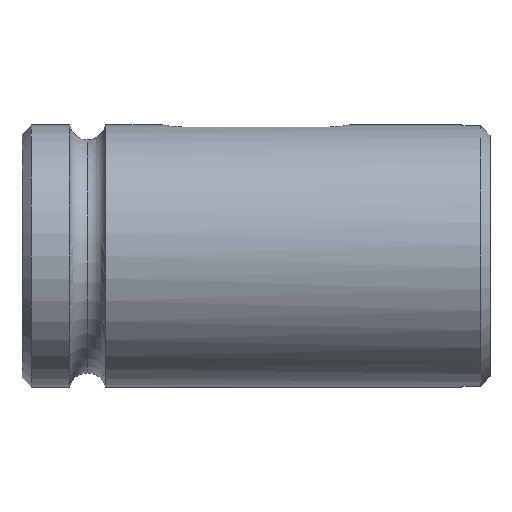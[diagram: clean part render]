
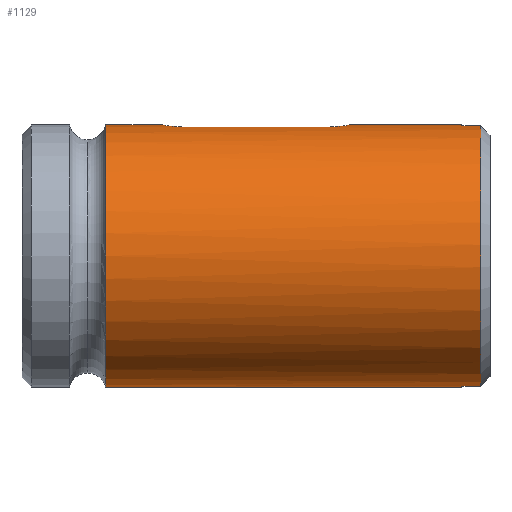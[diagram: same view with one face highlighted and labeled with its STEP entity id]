
A CAD part, front view. The second image highlights one B-rep face of the part: STEP entity #1129.
In plain terms, the highlighted cylindrical face has radius 14 mm (diameter 28 mm), a partial arc.
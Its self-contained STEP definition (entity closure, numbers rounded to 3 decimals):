
#5 = ORIENTED_EDGE ( 'NONE', *, *, #960, .F. ) ;
#18 = CARTESIAN_POINT ( 'NONE',  ( -67.863, 0., -14. ) ) ;
#28 = VERTEX_POINT ( 'NONE', #432 ) ;
#30 = VECTOR ( 'NONE', #669, 1000. ) ;
#40 = CARTESIAN_POINT ( 'NONE',  ( -67.863, -2.5, 13.775 ) ) ;
#56 = VERTEX_POINT ( 'NONE', #929 ) ;
#67 = DIRECTION ( 'NONE',  ( -1., 0., 0. ) ) ;
#89 = DIRECTION ( 'NONE',  ( -1., 0., 0. ) ) ;
#90 = CARTESIAN_POINT ( 'NONE',  ( -16.852, -2.42, 13.789 ) ) ;
#92 = CARTESIAN_POINT ( 'NONE',  ( -33.756, -2.168, 13.831 ) ) ;
#96 = LINE ( 'NONE', #991, #539 ) ;
#97 = CARTESIAN_POINT ( 'NONE',  ( -67.863, 0., 0. ) ) ;
#122 = ORIENTED_EDGE ( 'NONE', *, *, #1080, .T. ) ;
#124 = CARTESIAN_POINT ( 'NONE',  ( -1., 0., 0. ) ) ;
#126 = VERTEX_POINT ( 'NONE', #469 ) ;
#133 = EDGE_CURVE ( 'NONE', #795, #839, #616, .T. ) ;
#141 = ORIENTED_EDGE ( 'NONE', *, *, #546, .F. ) ;
#161 = AXIS2_PLACEMENT_3D ( 'NONE', #124, #744, #210 ) ;
#163 = ORIENTED_EDGE ( 'NONE', *, *, #693, .T. ) ;
#166 = VERTEX_POINT ( 'NONE', #752 ) ;
#178 = CARTESIAN_POINT ( 'NONE',  ( -16.39, -2.246, 13.819 ) ) ;
#179 = DIRECTION ( 'NONE',  ( -1., 0., 0. ) ) ;
#184 = CARTESIAN_POINT ( 'NONE',  ( -33.308, -2.372, 13.798 ) ) ;
#198 = VERTEX_POINT ( 'NONE', #207 ) ;
#205 = ORIENTED_EDGE ( 'NONE', *, *, #597, .T. ) ;
#207 = CARTESIAN_POINT ( 'NONE',  ( -1., -1.5, 13.919 ) ) ;
#210 = DIRECTION ( 'NONE',  ( 0., 0., 1. ) ) ;
#234 = VERTEX_POINT ( 'NONE', #608 ) ;
#239 = EDGE_CURVE ( 'NONE', #234, #56, #326, .T. ) ;
#250 = CYLINDRICAL_SURFACE ( 'NONE', #855, 14. ) ;
#265 = CARTESIAN_POINT ( 'NONE',  ( -34.984, -0.329, 13.997 ) ) ;
#266 = CARTESIAN_POINT ( 'NONE',  ( -15.975, -1.988, 13.858 ) ) ;
#272 = CARTESIAN_POINT ( 'NONE',  ( -32.831, -2.483, 13.778 ) ) ;
#324 = LINE ( 'NONE', #1078, #990 ) ;
#326 = LINE ( 'NONE', #789, #964 ) ;
#345 = ORIENTED_EDGE ( 'NONE', *, *, #133, .T. ) ;
#347 = VECTOR ( 'NONE', #361, 1000. ) ;
#352 = CARTESIAN_POINT ( 'NONE',  ( -34.872, -0.806, 13.978 ) ) ;
#353 = CARTESIAN_POINT ( 'NONE',  ( -15.501, -1.537, 13.917 ) ) ;
#357 = CARTESIAN_POINT ( 'NONE',  ( -32.5, -2.5, 13.775 ) ) ;
#361 = DIRECTION ( 'NONE',  ( -1., 0., 0. ) ) ;
#364 = ORIENTED_EDGE ( 'NONE', *, *, #966, .F. ) ;
#372 = CARTESIAN_POINT ( 'NONE',  ( -17.5, -2.5, 13.775 ) ) ;
#393 = VECTOR ( 'NONE', #917, 1000. ) ;
#432 = CARTESIAN_POINT ( 'NONE',  ( -41.064, 0., 14. ) ) ;
#435 = AXIS2_PLACEMENT_3D ( 'NONE', #1048, #491, #1132 ) ;
#438 = CIRCLE ( 'NONE', #435, 14. ) ;
#439 = CARTESIAN_POINT ( 'NONE',  ( -34.669, -1.254, 13.944 ) ) ;
#442 = CARTESIAN_POINT ( 'NONE',  ( -15.128, -0.807, 13.978 ) ) ;
#455 = CARTESIAN_POINT ( 'NONE',  ( -41.064, 0., -14. ) ) ;
#469 = CARTESIAN_POINT ( 'NONE',  ( -32.5, -2.5, 13.775 ) ) ;
#476 = LINE ( 'NONE', #40, #30 ) ;
#491 = DIRECTION ( 'NONE',  ( -1., 0., 0. ) ) ;
#518 = LINE ( 'NONE', #18, #393 ) ;
#524 = EDGE_LOOP ( 'NONE', ( #5, #163, #951, #816, #615, #205, #345, #364, #141, #886, #122, #949 ) ) ;
#534 = CARTESIAN_POINT ( 'NONE',  ( -34.384, -1.651, 13.903 ) ) ;
#536 = CARTESIAN_POINT ( 'NONE',  ( -15.016, -0.326, 13.997 ) ) ;
#539 = VECTOR ( 'NONE', #1081, 1000. ) ;
#543 = CARTESIAN_POINT ( 'NONE',  ( -41.064, 0., 0. ) ) ;
#546 = EDGE_CURVE ( 'NONE', #126, #942, #476, .T. ) ;
#557 = B_SPLINE_CURVE_WITH_KNOTS ( 'NONE', 3,
 ( #1163, #707, #265, #893, #352, #994, #439, #1084, #534, #1168, #626, #92, #716, #184, #811, #272, #903, #357 ),
 .UNSPECIFIED., .F., .F.,
 ( 4, 2, 2, 2, 2, 2, 2, 2, 4 ),
 ( 0.004, 0.004, 0.005, 0.005, 0.006, 0.006, 0.007, 0.007, 0.008 ),
 .UNSPECIFIED. ) ;
#597 = EDGE_CURVE ( 'NONE', #166, #795, #438, .T. ) ;
#598 = CARTESIAN_POINT ( 'NONE',  ( -3., 0., 0. ) ) ;
#606 = AXIS2_PLACEMENT_3D ( 'NONE', #598, #67, #688 ) ;
#608 = CARTESIAN_POINT ( 'NONE',  ( -3., -1.5, -13.919 ) ) ;
#615 = ORIENTED_EDGE ( 'NONE', *, *, #849, .T. ) ;
#616 = LINE ( 'NONE', #739, #347 ) ;
#619 = CARTESIAN_POINT ( 'NONE',  ( -15., 0., 14. ) ) ;
#621 = DIRECTION ( 'NONE',  ( 0., 0., 1. ) ) ;
#622 = CARTESIAN_POINT ( 'NONE',  ( -17.172, -2.484, 13.778 ) ) ;
#626 = CARTESIAN_POINT ( 'NONE',  ( -34.026, -1.987, 13.859 ) ) ;
#627 = CARTESIAN_POINT ( 'NONE',  ( -15., 0., 14. ) ) ;
#631 = CARTESIAN_POINT ( 'NONE',  ( -35., 0., 14. ) ) ;
#635 = DIRECTION ( 'NONE',  ( 0., 0., 1. ) ) ;
#649 = VERTEX_POINT ( 'NONE', #1053 ) ;
#669 = DIRECTION ( 'NONE',  ( 1., 0., 0. ) ) ;
#688 = DIRECTION ( 'NONE',  ( 0., -1., 0. ) ) ;
#693 = EDGE_CURVE ( 'NONE', #649, #234, #1090, .T. ) ;
#707 = CARTESIAN_POINT ( 'NONE',  ( -35., -0.163, 14. ) ) ;
#711 = CARTESIAN_POINT ( 'NONE',  ( -16.693, -2.372, 13.798 ) ) ;
#716 = CARTESIAN_POINT ( 'NONE',  ( -33.61, -2.246, 13.819 ) ) ;
#739 = CARTESIAN_POINT ( 'NONE',  ( -67.863, 0., 14. ) ) ;
#744 = DIRECTION ( 'NONE',  ( -1., 0., 0. ) ) ;
#752 = CARTESIAN_POINT ( 'NONE',  ( -3., -1.5, 13.919 ) ) ;
#760 = FACE_OUTER_BOUND ( 'NONE', #524, .T. ) ;
#789 = CARTESIAN_POINT ( 'NONE',  ( -67.863, -1.5, -13.919 ) ) ;
#795 = VERTEX_POINT ( 'NONE', #883 ) ;
#807 = CARTESIAN_POINT ( 'NONE',  ( -16.246, -2.169, 13.831 ) ) ;
#811 = CARTESIAN_POINT ( 'NONE',  ( -33.152, -2.419, 13.789 ) ) ;
#816 = ORIENTED_EDGE ( 'NONE', *, *, #1050, .T. ) ;
#839 = VERTEX_POINT ( 'NONE', #619 ) ;
#849 = EDGE_CURVE ( 'NONE', #198, #166, #324, .T. ) ;
#852 = EDGE_CURVE ( 'NONE', #876, #126, #557, .T. ) ;
#855 = AXIS2_PLACEMENT_3D ( 'NONE', #97, #179, #621 ) ;
#876 = VERTEX_POINT ( 'NONE', #631 ) ;
#883 = CARTESIAN_POINT ( 'NONE',  ( -3., 0., 14. ) ) ;
#886 = ORIENTED_EDGE ( 'NONE', *, *, #852, .F. ) ;
#893 = CARTESIAN_POINT ( 'NONE',  ( -34.92, -0.65, 13.986 ) ) ;
#895 = CARTESIAN_POINT ( 'NONE',  ( -15.847, -1.882, 13.873 ) ) ;
#903 = CARTESIAN_POINT ( 'NONE',  ( -32.665, -2.5, 13.775 ) ) ;
#917 = DIRECTION ( 'NONE',  ( -1., 0., 0. ) ) ;
#925 = VERTEX_POINT ( 'NONE', #455 ) ;
#929 = CARTESIAN_POINT ( 'NONE',  ( -1., -1.5, -13.919 ) ) ;
#942 = VERTEX_POINT ( 'NONE', #1101 ) ;
#949 = ORIENTED_EDGE ( 'NONE', *, *, #1138, .F. ) ;
#951 = ORIENTED_EDGE ( 'NONE', *, *, #239, .T. ) ;
#960 = EDGE_CURVE ( 'NONE', #649, #925, #518, .T. ) ;
#964 = VECTOR ( 'NONE', #1060, 1000. ) ;
#966 = EDGE_CURVE ( 'NONE', #942, #839, #1047, .T. ) ;
#972 = CIRCLE ( 'NONE', #1037, 14. ) ;
#990 = VECTOR ( 'NONE', #89, 1000. ) ;
#991 = CARTESIAN_POINT ( 'NONE',  ( -67.863, 0., 14. ) ) ;
#994 = CARTESIAN_POINT ( 'NONE',  ( -34.747, -1.109, 13.957 ) ) ;
#995 = CARTESIAN_POINT ( 'NONE',  ( -15.315, -1.258, 13.947 ) ) ;
#1037 = AXIS2_PLACEMENT_3D ( 'NONE', #543, #1175, #635 ) ;
#1047 = B_SPLINE_CURVE_WITH_KNOTS ( 'NONE', 3,
 ( #372, #1106, #622, #90, #711, #178, #807, #266, #895, #353, #995, #442, #1086, #536, #1169, #627 ),
 .UNSPECIFIED., .F., .F.,
 ( 4, 2, 2, 2, 2, 2, 2, 4 ),
 ( 0., 0., 0.001, 0.001, 0.002, 0.003, 0.003, 0.004 ),
 .UNSPECIFIED. ) ;
#1048 = CARTESIAN_POINT ( 'NONE',  ( -3., 0., 0. ) ) ;
#1050 = EDGE_CURVE ( 'NONE', #56, #198, #1083, .T. ) ;
#1053 = CARTESIAN_POINT ( 'NONE',  ( -3., 0., -14. ) ) ;
#1060 = DIRECTION ( 'NONE',  ( 1., 0., 0. ) ) ;
#1078 = CARTESIAN_POINT ( 'NONE',  ( -67.863, -1.5, 13.919 ) ) ;
#1080 = EDGE_CURVE ( 'NONE', #876, #28, #96, .T. ) ;
#1081 = DIRECTION ( 'NONE',  ( -1., 0., 0. ) ) ;
#1083 = CIRCLE ( 'NONE', #161, 14. ) ;
#1084 = CARTESIAN_POINT ( 'NONE',  ( -34.488, -1.525, 13.917 ) ) ;
#1086 = CARTESIAN_POINT ( 'NONE',  ( -15.08, -0.649, 13.986 ) ) ;
#1090 = CIRCLE ( 'NONE', #606, 14. ) ;
#1101 = CARTESIAN_POINT ( 'NONE',  ( -17.5, -2.5, 13.775 ) ) ;
#1106 = CARTESIAN_POINT ( 'NONE',  ( -17.334, -2.5, 13.775 ) ) ;
#1129 = ADVANCED_FACE ( 'NONE', ( #760 ), #250, .T. ) ;
#1132 = DIRECTION ( 'NONE',  ( 0., -1., 0. ) ) ;
#1138 = EDGE_CURVE ( 'NONE', #925, #28, #972, .T. ) ;
#1163 = CARTESIAN_POINT ( 'NONE',  ( -35., 0., 14. ) ) ;
#1168 = CARTESIAN_POINT ( 'NONE',  ( -34.152, -1.884, 13.873 ) ) ;
#1169 = CARTESIAN_POINT ( 'NONE',  ( -15., -0.163, 14. ) ) ;
#1175 = DIRECTION ( 'NONE',  ( -1., 0., 0. ) ) ;
